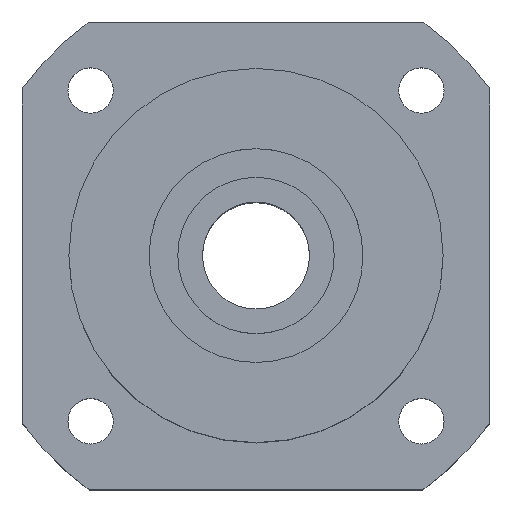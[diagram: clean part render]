
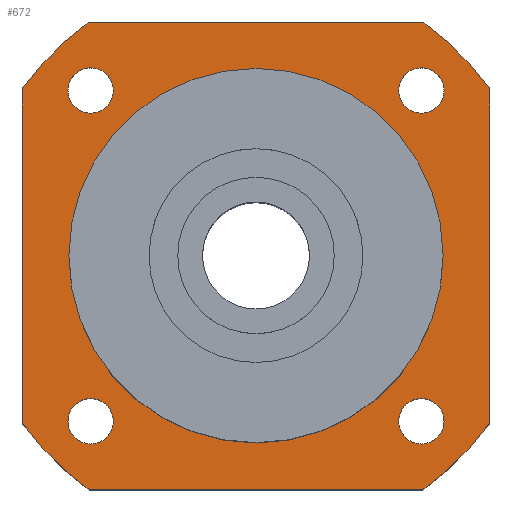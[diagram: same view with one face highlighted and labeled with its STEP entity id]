
A CAD part, top view. The second image highlights one B-rep face of the part: STEP entity #672.
In plain terms, the highlighted planar face has unit normal (0, 0, 1).
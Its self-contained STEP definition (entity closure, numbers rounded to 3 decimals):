
#35=LINE($,#1260,#67);
#38=LINE($,#1268,#70);
#41=LINE($,#1276,#73);
#44=LINE($,#1283,#76);
#67=VECTOR($,#932,24.98);
#70=VECTOR($,#941,24.98);
#73=VECTOR($,#950,24.98);
#76=VECTOR($,#959,24.98);
#180=FACE_BOUND($,#260,.T.);
#181=FACE_BOUND($,#261,.T.);
#182=FACE_BOUND($,#262,.T.);
#183=FACE_BOUND($,#263,.T.);
#184=FACE_BOUND($,#264,.T.);
#185=FACE_BOUND($,#265,.T.);
#260=EDGE_LOOP($,(#599));
#261=EDGE_LOOP($,(#600));
#262=EDGE_LOOP($,(#601));
#263=EDGE_LOOP($,(#602));
#264=EDGE_LOOP($,(#603));
#265=EDGE_LOOP($,(#604,#605,#606,#607,#608,#609,#610,#611));
#292=CIRCLE($,#724,1.7);
#295=CIRCLE($,#730,1.7);
#298=CIRCLE($,#736,1.7);
#301=CIRCLE($,#742,1.7);
#303=CIRCLE($,#745,14.);
#304=CIRCLE($,#748,21.5);
#305=CIRCLE($,#751,21.5);
#306=CIRCLE($,#754,21.5);
#307=CIRCLE($,#757,21.5);
#352=VERTEX_POINT($,#1217);
#355=VERTEX_POINT($,#1226);
#358=VERTEX_POINT($,#1235);
#361=VERTEX_POINT($,#1244);
#363=VERTEX_POINT($,#1249);
#364=VERTEX_POINT($,#1253);
#365=VERTEX_POINT($,#1255);
#366=VERTEX_POINT($,#1259);
#367=VERTEX_POINT($,#1263);
#368=VERTEX_POINT($,#1267);
#369=VERTEX_POINT($,#1271);
#370=VERTEX_POINT($,#1275);
#371=VERTEX_POINT($,#1279);
#424=EDGE_CURVE($,#352,#352,#292,.T.);
#427=EDGE_CURVE($,#355,#355,#295,.T.);
#430=EDGE_CURVE($,#358,#358,#298,.T.);
#433=EDGE_CURVE($,#361,#361,#301,.T.);
#435=EDGE_CURVE($,#363,#363,#303,.T.);
#437=EDGE_CURVE($,#365,#364,#304,.T.);
#439=EDGE_CURVE($,#366,#365,#35,.T.);
#441=EDGE_CURVE($,#367,#366,#305,.T.);
#443=EDGE_CURVE($,#368,#367,#38,.T.);
#445=EDGE_CURVE($,#369,#368,#306,.T.);
#447=EDGE_CURVE($,#370,#369,#41,.T.);
#449=EDGE_CURVE($,#371,#370,#307,.T.);
#451=EDGE_CURVE($,#364,#371,#44,.T.);
#599=ORIENTED_EDGE($,*,*,#424,.T.);
#600=ORIENTED_EDGE($,*,*,#427,.T.);
#601=ORIENTED_EDGE($,*,*,#430,.T.);
#602=ORIENTED_EDGE($,*,*,#433,.T.);
#603=ORIENTED_EDGE($,*,*,#435,.T.);
#604=ORIENTED_EDGE($,*,*,#451,.T.);
#605=ORIENTED_EDGE($,*,*,#449,.T.);
#606=ORIENTED_EDGE($,*,*,#447,.T.);
#607=ORIENTED_EDGE($,*,*,#445,.T.);
#608=ORIENTED_EDGE($,*,*,#443,.T.);
#609=ORIENTED_EDGE($,*,*,#441,.T.);
#610=ORIENTED_EDGE($,*,*,#439,.T.);
#611=ORIENTED_EDGE($,*,*,#437,.T.);
#630=PLANE($,#759);
#672=ADVANCED_FACE($,(#180,#181,#182,#183,#184,#185),#630,.T.);
#724=AXIS2_PLACEMENT_3D($,#1218,#878,#879);
#730=AXIS2_PLACEMENT_3D($,#1227,#890,#891);
#736=AXIS2_PLACEMENT_3D($,#1236,#902,#903);
#742=AXIS2_PLACEMENT_3D($,#1245,#914,#915);
#745=AXIS2_PLACEMENT_3D($,#1250,#920,#921);
#748=AXIS2_PLACEMENT_3D($,#1256,#927,#928);
#751=AXIS2_PLACEMENT_3D($,#1264,#936,#937);
#754=AXIS2_PLACEMENT_3D($,#1272,#945,#946);
#757=AXIS2_PLACEMENT_3D($,#1280,#954,#955);
#759=AXIS2_PLACEMENT_3D($,#1284,#960,#961);
#878=DIRECTION('center_axis',(0.,0.,-1.));
#879=DIRECTION('ref_axis',(-1.,0.,0.));
#890=DIRECTION('center_axis',(0.,0.,-1.));
#891=DIRECTION('ref_axis',(-1.,0.,0.));
#902=DIRECTION('center_axis',(0.,0.,-1.));
#903=DIRECTION('ref_axis',(-1.,0.,0.));
#914=DIRECTION('center_axis',(0.,0.,-1.));
#915=DIRECTION('ref_axis',(-1.,0.,0.));
#920=DIRECTION('center_axis',(0.,0.,-1.));
#921=DIRECTION('ref_axis',(-1.,0.,0.));
#927=DIRECTION('center_axis',(0.,0.,1.));
#928=DIRECTION('ref_axis',(-0.581,0.814,0.));
#932=DIRECTION($,(-1.,0.,0.));
#936=DIRECTION('center_axis',(0.,0.,1.));
#937=DIRECTION('ref_axis',(0.814,0.581,0.));
#941=DIRECTION($,(0.,1.,0.));
#945=DIRECTION('center_axis',(0.,0.,1.));
#946=DIRECTION('ref_axis',(0.581,-0.814,0.));
#950=DIRECTION($,(1.,0.,0.));
#954=DIRECTION('center_axis',(0.,0.,1.));
#955=DIRECTION('ref_axis',(-0.814,-0.581,0.));
#959=DIRECTION($,(0.,-1.,0.));
#960=DIRECTION('center_axis',(0.,0.,1.));
#961=DIRECTION('ref_axis',(1.,0.,0.));
#1217=CARTESIAN_POINT('',(-10.674,-12.374,9.));
#1218=CARTESIAN_POINT('Origin',(-12.374,-12.374,9.));
#1226=CARTESIAN_POINT('',(14.074,12.374,9.));
#1227=CARTESIAN_POINT('Origin',(12.374,12.374,9.));
#1235=CARTESIAN_POINT('',(14.074,-12.374,9.));
#1236=CARTESIAN_POINT('Origin',(12.374,-12.374,9.));
#1244=CARTESIAN_POINT('',(-10.674,12.374,9.));
#1245=CARTESIAN_POINT('Origin',(-12.374,12.374,9.));
#1249=CARTESIAN_POINT('',(14.,0.,9.));
#1250=CARTESIAN_POINT('Origin',(0.,0.,9.));
#1253=CARTESIAN_POINT('',(-17.5,12.49,9.));
#1255=CARTESIAN_POINT('',(-12.49,17.5,9.));
#1256=CARTESIAN_POINT('Origin',(0.,0.,9.));
#1259=CARTESIAN_POINT('',(12.49,17.5,9.));
#1260=CARTESIAN_POINT($,(12.49,17.5,9.));
#1263=CARTESIAN_POINT('',(17.5,12.49,9.));
#1264=CARTESIAN_POINT('Origin',(0.,0.,9.));
#1267=CARTESIAN_POINT('',(17.5,-12.49,9.));
#1268=CARTESIAN_POINT($,(17.5,-12.49,9.));
#1271=CARTESIAN_POINT('',(12.49,-17.5,9.));
#1272=CARTESIAN_POINT('Origin',(0.,0.,9.));
#1275=CARTESIAN_POINT('',(-12.49,-17.5,9.));
#1276=CARTESIAN_POINT($,(-12.49,-17.5,9.));
#1279=CARTESIAN_POINT('',(-17.5,-12.49,9.));
#1280=CARTESIAN_POINT('Origin',(0.,0.,9.));
#1283=CARTESIAN_POINT($,(-17.5,12.49,9.));
#1284=CARTESIAN_POINT('Origin',(0.,0.,
9.));
